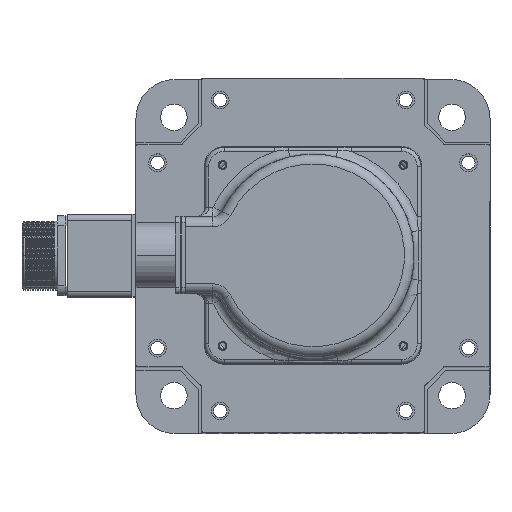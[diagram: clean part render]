
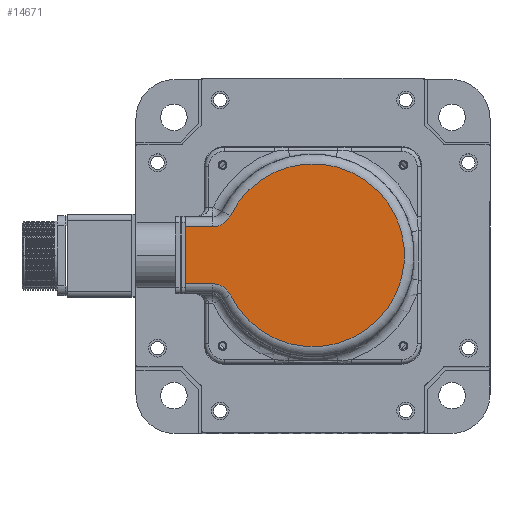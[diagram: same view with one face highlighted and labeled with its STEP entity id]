
A CAD part, top view. The second image highlights one B-rep face of the part: STEP entity #14671.
In plain terms, the highlighted planar face has unit normal (0, 0, 1).
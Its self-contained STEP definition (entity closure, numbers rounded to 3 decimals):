
#582 = VERTEX_POINT ( 'NONE', #11911 ) ;
#1398 = DIRECTION ( 'NONE',  ( 0., 0., 1. ) ) ;
#2025 = LINE ( 'NONE', #11896, #15976 ) ;
#2269 = CIRCLE ( 'NONE', #19331, 10. ) ;
#2570 = EDGE_CURVE ( 'NONE', #29218, #3683, #20042, .T. ) ;
#2954 = CARTESIAN_POINT ( 'NONE',  ( -65., 0., 478. ) ) ;
#3675 = PLANE ( 'NONE',  #27685 ) ;
#3683 = VERTEX_POINT ( 'NONE', #26492 ) ;
#4392 = VERTEX_POINT ( 'NONE', #30517 ) ;
#5379 = VECTOR ( 'NONE', #14165, 1000. ) ;
#6087 = CARTESIAN_POINT ( 'NONE',  ( 0., 0., 478. ) ) ;
#6416 = DIRECTION ( 'NONE',  ( -1., 0., 0. ) ) ;
#7097 = EDGE_LOOP ( 'NONE', ( #28938, #24264, #26120, #19959, #26285, #22993 ) ) ;
#7744 = AXIS2_PLACEMENT_3D ( 'NONE', #17979, #30290, #8095 ) ;
#8095 = DIRECTION ( 'NONE',  ( -1., 0., 0. ) ) ;
#8131 = AXIS2_PLACEMENT_3D ( 'NONE', #16629, #26671, #26508 ) ;
#8672 = FACE_OUTER_BOUND ( 'NONE', #7097, .T. ) ;
#8914 = EDGE_CURVE ( 'NONE', #4392, #582, #2025, .T. ) ;
#10735 = EDGE_CURVE ( 'NONE', #29218, #582, #2269, .T. ) ;
#10764 = VERTEX_POINT ( 'NONE', #31815 ) ;
#11283 = EDGE_CURVE ( 'NONE', #10764, #25252, #21613, .T. ) ;
#11415 = DIRECTION ( 'NONE',  ( 1., 0., 0. ) ) ;
#11884 = CARTESIAN_POINT ( 'NONE',  ( 0., 14.5, 478. ) ) ;
#11896 = CARTESIAN_POINT ( 'NONE',  ( -47.666, -14.5, 478. ) ) ;
#11911 = CARTESIAN_POINT ( 'NONE',  ( -50.912, -14.5, 478. ) ) ;
#12821 = DIRECTION ( 'NONE',  ( 0., 1., 0. ) ) ;
#14165 = DIRECTION ( 'NONE',  ( -1., 0., 0. ) ) ;
#14671 = ADVANCED_FACE ( 'NONE', ( #8672 ), #3675, .T. ) ;
#15976 = VECTOR ( 'NONE', #11415, 1000. ) ;
#16629 = CARTESIAN_POINT ( 'NONE',  ( 0., 0., 478. ) ) ;
#17287 = CARTESIAN_POINT ( 'NONE',  ( -41.901, -20.164, 478. ) ) ;
#17769 = EDGE_CURVE ( 'NONE', #4392, #25252, #25135, .T. ) ;
#17979 = CARTESIAN_POINT ( 'NONE',  ( -50.912, 24.5, 478. ) ) ;
#19331 = AXIS2_PLACEMENT_3D ( 'NONE', #31488, #26792, #21930 ) ;
#19959 = ORIENTED_EDGE ( 'NONE', *, *, #8914, .T. ) ;
#20042 = CIRCLE ( 'NONE', #8131, 46.5 ) ;
#20988 = EDGE_CURVE ( 'NONE', #10764, #3683, #28437, .T. ) ;
#21613 = LINE ( 'NONE', #11884, #5379 ) ;
#21930 = DIRECTION ( 'NONE',  ( -1., 0., 0. ) ) ;
#22993 = ORIENTED_EDGE ( 'NONE', *, *, #2570, .T. ) ;
#24264 = ORIENTED_EDGE ( 'NONE', *, *, #11283, .T. ) ;
#25135 = LINE ( 'NONE', #2954, #25687 ) ;
#25252 = VERTEX_POINT ( 'NONE', #27240 ) ;
#25687 = VECTOR ( 'NONE', #12821, 1000. ) ;
#26120 = ORIENTED_EDGE ( 'NONE', *, *, #17769, .F. ) ;
#26285 = ORIENTED_EDGE ( 'NONE', *, *, #10735, .F. ) ;
#26492 = CARTESIAN_POINT ( 'NONE',  ( -41.901, 20.164, 478. ) ) ;
#26508 = DIRECTION ( 'NONE',  ( -1., 0., 0. ) ) ;
#26671 = DIRECTION ( 'NONE',  ( 0., 0., 1. ) ) ;
#26792 = DIRECTION ( 'NONE',  ( 0., 0., 1. ) ) ;
#27240 = CARTESIAN_POINT ( 'NONE',  ( -65., 14.5, 478. ) ) ;
#27685 = AXIS2_PLACEMENT_3D ( 'NONE', #6087, #1398, #6416 ) ;
#28437 = CIRCLE ( 'NONE', #7744, 10. ) ;
#28938 = ORIENTED_EDGE ( 'NONE', *, *, #20988, .F. ) ;
#29218 = VERTEX_POINT ( 'NONE', #17287 ) ;
#30290 = DIRECTION ( 'NONE',  ( 0., 0., 1. ) ) ;
#30517 = CARTESIAN_POINT ( 'NONE',  ( -65., -14.5, 478. ) ) ;
#31488 = CARTESIAN_POINT ( 'NONE',  ( -50.912, -24.5, 478. ) ) ;
#31815 = CARTESIAN_POINT ( 'NONE',  ( -50.912, 14.5, 478. ) ) ;
